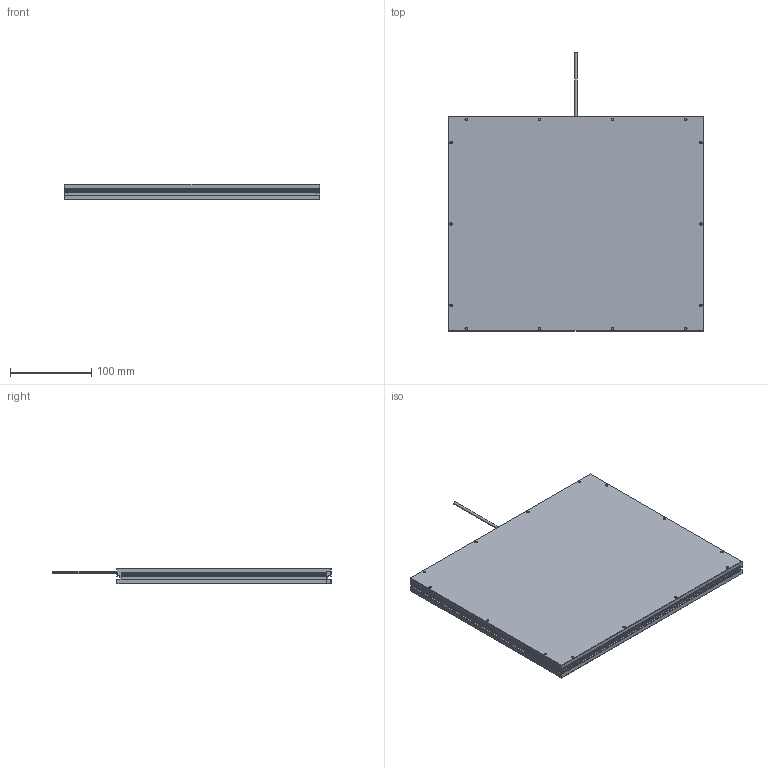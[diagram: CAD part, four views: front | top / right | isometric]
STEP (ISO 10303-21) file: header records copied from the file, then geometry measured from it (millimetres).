
FILE_DESCRIPTION((''),'2;1');
FILE_NAME('P-HFL-300-250_ASM','2020-04-27T',('win 10'),(''),'PRO/ENGINEER BY PARAMETRIC TECHNOLOGY CORPORATION, 2010100','PRO/ENGINEER BY PARAMETRIC TECHNOLOGY CORPORATION, 2010100','');
FILE_SCHEMA(('CONFIG_CONTROL_DESIGN'));
Length unit declared in the file: millimetre
Products named in the file (2): P-HFL-300-250-DIBAN; P-HFL-300-250_ASM
Assembly tree (1 placements, depth 2):
  P-HFL-300-250_ASM
    P-HFL-300-250-DIBAN
Bounding box: 314 x 342.61 x 19 mm (x, y, z)
Volume: 571564.4 mm3; surface area: 383074.2 mm2
Topology: 1 solids, 16 shells, 241 faces, 661 edges, 446 vertices
Faces by surface type: plane 179, cylinder 59, cone 3
Entity records: 7643 total; most frequent: CARTESIAN_POINT 1361, DIRECTION 1276, ORIENTED_EDGE 1242, EDGE_CURVE 661, VECTOR 530, LINE 530, VERTEX_POINT 446, AXIS2_PLACEMENT_3D 373
